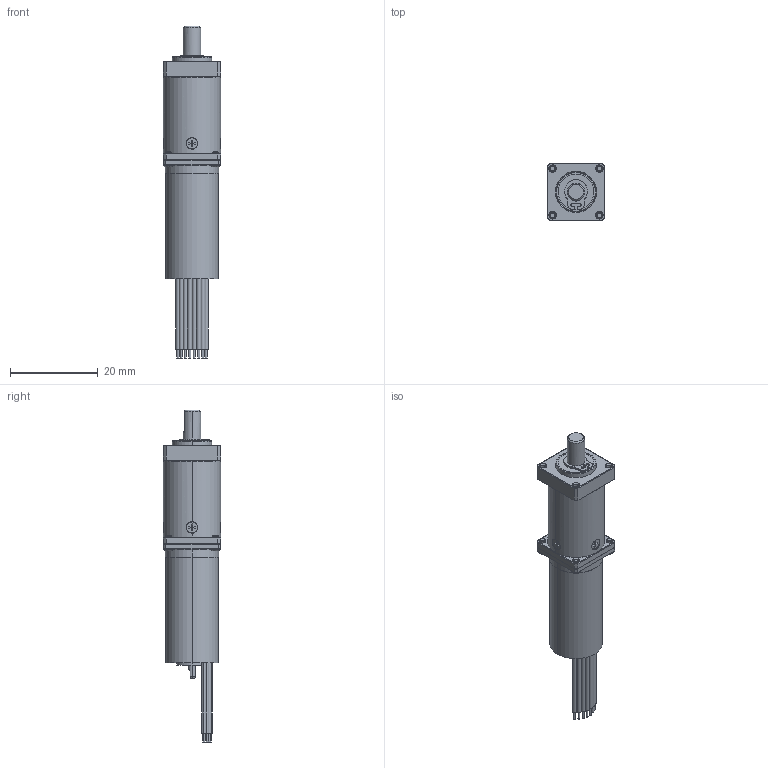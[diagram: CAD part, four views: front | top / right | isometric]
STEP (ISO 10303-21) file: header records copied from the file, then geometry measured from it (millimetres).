
FILE_DESCRIPTION (( 'STEP AP203' ), '1' );
FILE_NAME ('○TB12M242L11+SDP13HB-16.STEP', '2026-09-09T06:49:24', ( '' ), ( '' ), 'SwSTEP 2.0', 'SolidWorks 2026', '' );
FILE_SCHEMA (( 'CONFIG_CONTROL_DESIGN' ));
Length unit declared in the file: millimetre
Products named in the file (1): ○TB12M242L11+SDP13HB-16
Bounding box: 13 x 13 x 75.5 mm (x, y, z)
Volume: 6515.7 mm3; surface area: 3254.4 mm2
Topology: 1 solids, 15 shells, 660 faces, 1579 edges, 983 vertices
Faces by surface type: plane 240, cylinder 223, cone 117, torus 71, sphere 9
Entity records: 19870 total; most frequent: CARTESIAN_POINT 4594, DIRECTION 3263, ORIENTED_EDGE 3130, EDGE_CURVE 1565, AXIS2_PLACEMENT_3D 1314, VERTEX_POINT 981, EDGE_LOOP 722, FACE_OUTER_BOUND 660
